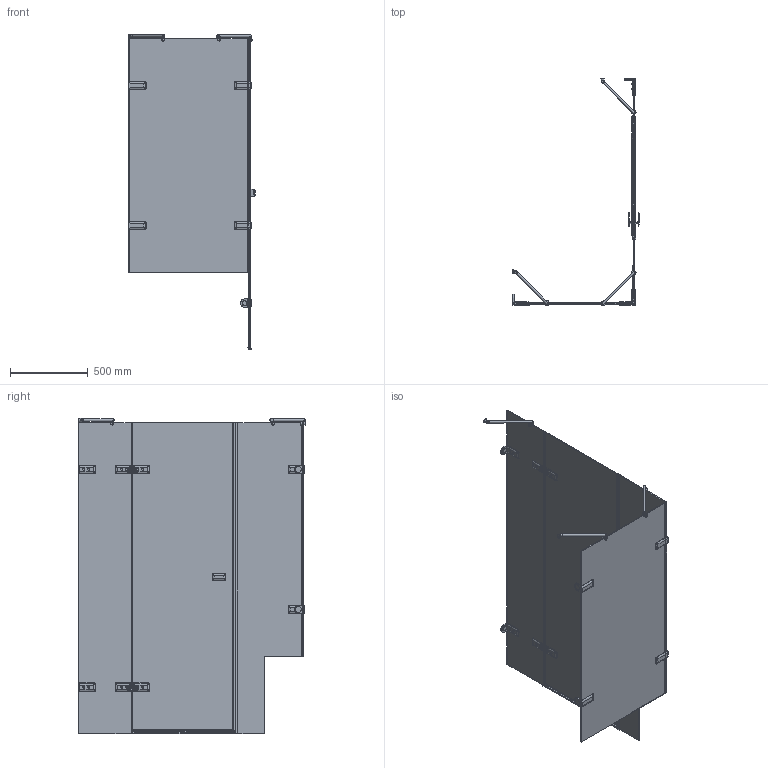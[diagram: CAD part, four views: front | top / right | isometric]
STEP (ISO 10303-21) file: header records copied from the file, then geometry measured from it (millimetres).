
FILE_DESCRIPTION(/* description */ (''),/* implementation_level */ '2;1');
FILE_NAME(/* name */ 'E:\Работа\Сергей\Душевые кабинки\! Работа\98\TREND RECTAN GK-864B1V\TREND RECTAN GK-864B1V правая модель\TREND RECTAN GK-864B1V ПРАВАЯ-3D.stp',/* time_stamp */ '2018-06-07T19:59:25+03:00',/* author */ ('PC'),/* organization */ (''),/* preprocessor_version */ 'ST-DEVELOPER v15.2',/* originating_system */ 'Autodesk Inventor 2014',/* authorisation */ '');
FILE_SCHEMA (('AUTOMOTIVE_DESIGN { 1 0 10303 214 3 1 1 }'));
Products named in the file (1): TREND RECTAN GK-864B1V ПРАВАЯ-
3D
Bounding box: 812.72 x 1463 x 2031.5 mm (x, y, z)
Volume: 25056798.7 mm3; surface area: 8354441.3 mm2
Topology: 14 solids, 14 shells, 1723 faces, 4480 edges, 2766 vertices
Faces by surface type: plane 978, cylinder 423, bspline 204, torus 64, sphere 30, cone 24
Full cylindrical faces by diameter (mm): 6 x4, 9 x8, 12 x4, 13 x4, 15 x3, 20 x6, 26 x2, 40 x4
Entity records: 73740 total; most frequent: CARTESIAN_POINT 31552, ORIENTED_EDGE 8558, DIRECTION 8064, EDGE_CURVE 4279, VERTEX_POINT 2718, AXIS2_PLACEMENT_3D 2716, LINE 2632, VECTOR 2632
